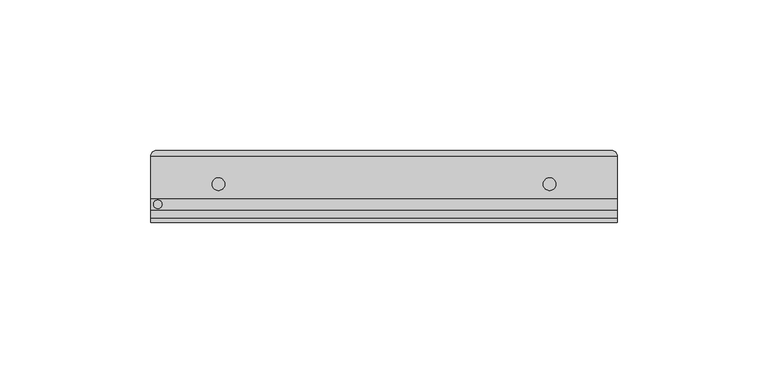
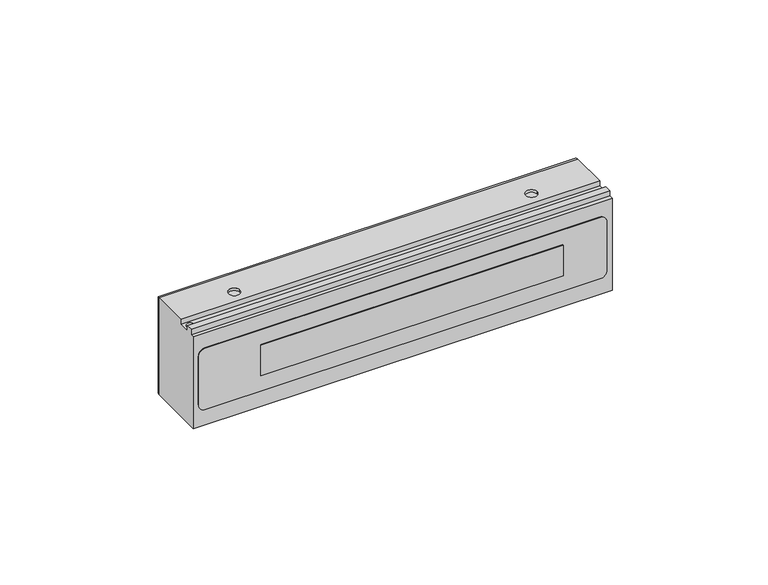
"""IFC4 building model written with IfcOpenShell, lengths in millimetres: proxy geometry, Электромагнитный_замок_ML-200K_Premium_Black_с_планкой_AccordTec_R19 : Электромагнитный_замок_ML-200K_Premium_Black_с_планкой_AccordTec_R19."""

from ifc_helpers import new_model, si_unit, point, frame, frame_2d, origin, place, context, project, spatial, polyline, circle_curve, ellipse_curve, trimmed, segment, composite_curve, outline, extrude, source, transform, mapped, element, save
from ifc_brep_helpers import plane_surface, cylinder_surface, revolved_surface, advanced_brep


def generic_models_45d1e053(model_context):
    return source(origin(), model_context, "Body", "SolidModel", [
        extrude(outline(polyline([(137.0, 0.0), (25.0, 0.0), (25.0, 1.0), (137.0, 1.0), (137.0, 0.0)])), frame((0.0, 0.0, 12.0), z_axis=(0.0, 0.0, 1.0), x_axis=(1.0, 0.0, 0.0)), (0.0, 0.0, 1.0), 12.0),
        extrude(outline(composite_curve([segment(trimmed(circle_curve(frame_2d((27.543832, 4.456168)), 2.456168), [point((30.0, 4.456168))], [point((27.543832, 2.0))], False, "CARTESIAN"), True, "CONTINUOUS"), segment(polyline([(27.543832, 2.0), (8.535388, 2.0)]), True, "CONTINUOUS"), segment(trimmed(circle_curve(frame_2d((8.535388, 4.535388)), 2.535388), [point((8.535388, 2.0))], [point((6.0, 4.535388))], False, "CARTESIAN"), True, "CONTINUOUS"), segment(polyline([(6.0, 4.535388), (6.0, 150.5255289)]), True, "CONTINUOUS"), segment(trimmed(circle_curve(frame_2d((8.4744711, 150.5255289)), 2.4744711), [point((6.0, 150.5255289))], [point((8.4744711, 153.0))], False, "CARTESIAN"), True, "CONTINUOUS"), segment(polyline([(8.4744711, 153.0), (27.5281712, 153.0)]), True, "CONTINUOUS"), segment(trimmed(circle_curve(frame_2d((27.5281712, 150.5281712)), 2.4718288), [point((27.5281712, 153.0))], [point((30.0, 150.5281712))], False, "CARTESIAN"), True, "CONTINUOUS"), segment(polyline([(30.0, 150.5281712), (30.0, 4.456168)]), True, "CONTINUOUS")], self_intersect=False), holes=[polyline([(24.0, 25.0), (24.0, 137.0), (12.0, 137.0), (12.0, 25.0), (24.0, 25.0)])]), frame((0.0, 0.0, 0.0), z_axis=(0.0, 1.0, 0.0), x_axis=(0.0, 0.0, 1.0)), (0.0, 0.0, 1.0), 1.0),
        advanced_brep(
        [(155.0, 8.0, 38.0), (155.0, 8.0, 36.0), (155.0, 4.0, 36.0), (155.0, 4.0, 38.0), (155.0, 1.5, 38.0), (155.0, 1.5, 36.0), (155.0, 0.0, 36.0), (155.0, 0.0, 0.0), (155.0, 22.0, 0.0), (155.0, 22.0, 38.0), (0.0, 0.0, 0.0), (0.0, 0.0, 36.0), (0.0, 1.5, 36.0), (0.0, 1.5, 38.0), (0.0, 4.0, 38.0), (0.0, 4.0, 36.0), (0.0, 8.0, 36.0), (0.0, 8.0, 38.0), (0.0, 22.0, 38.0), (0.0, 22.0, 0.0), (134.6, 12.75, 38.0), (130.4, 12.75, 38.0), (24.6, 12.75, 38.0), (20.4, 12.75, 38.0), (3.8, 6.09, 36.0), (1.0, 6.09, 36.0), (4.456168, 0.0, 30.0), (150.5281712, 0.0, 30.0), (153.0, 0.0, 27.5281712), (153.0, 0.0, 8.4744711), (150.5255289, 0.0, 6.0), (4.535388, 0.0, 6.0), (2.0, 0.0, 8.535388), (2.0, 0.0, 27.543832), (153.0, 24.0, 2.0), (2.0, 24.0, 2.0), (2.0, 24.0, 36.0), (153.0, 24.0, 36.0), (150.5281712, 1.0, 30.0), (4.456168, 1.0, 30.0), (2.0, 1.0, 27.543832), (2.0, 1.0, 8.535388), (4.535388, 1.0, 6.0), (150.5255289, 1.0, 6.0), (153.0, 1.0, 8.4744711), (153.0, 1.0, 27.5281712), (134.6, 12.75, 37.0), (130.4, 12.75, 37.0), (24.6, 12.75, 37.0), (20.4, 12.75, 37.0), (3.8, 6.09, 35.0), (1.0, 6.09, 35.0)],
        [
            (0, 1),
            (1, 2),
            (2, 3),
            (3, 4),
            (4, 5),
            (5, 6),
            (6, 7),
            (7, 8),
            (8, 9),
            (9, 0),
            (10, 11),
            (11, 12),
            (12, 13),
            (13, 14),
            (14, 15),
            (15, 16),
            (16, 17),
            (17, 18),
            (18, 19),
            (19, 10),
            (17, 0),
            (9, 18),
            (20, 21, circle_curve(frame((132.5, 12.75, 38.0), z_axis=(0.0, 0.0, -1.0), x_axis=(-1.0, 0.0, 0.0)), 2.1)),
            (21, 20, circle_curve(frame((132.5, 12.75, 38.0), z_axis=(0.0, 0.0, -1.0), x_axis=(-1.0, 0.0, 0.0)), 2.1)),
            (22, 23, circle_curve(frame((22.5, 12.75, 38.0), z_axis=(0.0, 0.0, -1.0), x_axis=(-1.0, 0.0, 0.0)), 2.1)),
            (23, 22, circle_curve(frame((22.5, 12.75, 38.0), z_axis=(0.0, 0.0, -1.0), x_axis=(-1.0, 0.0, 0.0)), 2.1)),
            (16, 1),
            (15, 2),
            (24, 25, circle_curve(frame((2.4, 6.09, 36.0), z_axis=(0.0, 0.0, -1.0), x_axis=(-1.0, 0.0, 0.0)), 1.4)),
            (25, 24, circle_curve(frame((2.4, 6.09, 36.0), z_axis=(0.0, 0.0, -1.0), x_axis=(-1.0, 0.0, 0.0)), 1.4)),
            (14, 3),
            (13, 4),
            (12, 5),
            (11, 6),
            (10, 7),
            (26, 27),
            (27, 28, circle_curve(frame((150.5281712, 0.0, 27.5281712), z_axis=(0.0, 1.0, 0.0), x_axis=(1.0, 0.0, 0.0)), 2.4718288)),
            (28, 29),
            (29, 30, circle_curve(frame((150.5255289, 0.0, 8.4744711), z_axis=(0.0, 1.0, 0.0), x_axis=(1.0, 0.0, 0.0)), 2.4744711)),
            (30, 31),
            (31, 32, circle_curve(frame((4.535388, 0.0, 8.535388), z_axis=(0.0, 1.0, 0.0), x_axis=(1.0, 0.0, 0.0)), 2.535388)),
            (32, 33),
            (33, 26, circle_curve(frame((4.456168, 0.0, 27.543832), z_axis=(0.0, 1.0, 0.0), x_axis=(1.0, 0.0, 0.0)), 2.456168)),
            (19, 8),
            (34, 35),
            (35, 36),
            (36, 37),
            (37, 34),
            (38, 39),
            (39, 40, circle_curve(frame((4.456168, 1.0, 27.543832), z_axis=(0.0, -1.0, 0.0), x_axis=(1.0, 0.0, 0.0)), 2.456168)),
            (40, 41),
            (41, 42, circle_curve(frame((4.535388, 1.0, 8.535388), z_axis=(0.0, -1.0, 0.0), x_axis=(1.0, 0.0, 0.0)), 2.535388)),
            (42, 43),
            (43, 44, circle_curve(frame((150.5255289, 1.0, 8.4744711), z_axis=(0.0, -1.0, 0.0), x_axis=(1.0, 0.0, 0.0)), 2.4744711)),
            (44, 45),
            (45, 38, circle_curve(frame((150.5281712, 1.0, 27.5281712), z_axis=(0.0, -1.0, 0.0), x_axis=(1.0, 0.0, 0.0)), 2.4718288)),
            (38, 27),
            (26, 39),
            (33, 40),
            (32, 41),
            (31, 42),
            (30, 43),
            (29, 44),
            (28, 45),
            (9, 37, ellipse_curve(frame((153.0, 22.0, 36.0), z_axis=(-0.7071067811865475, 0.0, 0.7071067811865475), x_axis=(-0.7071067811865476, 0.0, -0.7071067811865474)), 2.8284271, 2.0)),
            (36, 18, ellipse_curve(frame((2.0, 22.0, 36.0), z_axis=(0.7071067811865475, 0.0, 0.7071067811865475), x_axis=(-0.7071067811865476, 0.0, 0.7071067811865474)), 2.8284271, 2.0)),
            (19, 35, ellipse_curve(frame((2.0, 22.0, 2.0), z_axis=(0.7071067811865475, 0.0, -0.7071067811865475), x_axis=(-0.7071067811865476, 0.0, -0.7071067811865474)), 2.8284271, 2.0)),
            (34, 8, ellipse_curve(frame((153.0, 22.0, 2.0), z_axis=(-0.7071067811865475, 0.0, -0.7071067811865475), x_axis=(-0.7071067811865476, 0.0, 0.7071067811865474)), 2.8284271, 2.0)),
            (46, 47, circle_curve(frame((132.5, 12.75, 37.0), z_axis=(0.0, 0.0, 1.0), x_axis=(-1.0, 0.0, 0.0)), 2.1)),
            (47, 46, circle_curve(frame((132.5, 12.75, 37.0), z_axis=(0.0, 0.0, 1.0), x_axis=(-1.0, 0.0, 0.0)), 2.1)),
            (48, 49, circle_curve(frame((22.5, 12.75, 37.0), z_axis=(0.0, 0.0, 1.0), x_axis=(-1.0, 0.0, 0.0)), 2.1)),
            (49, 48, circle_curve(frame((22.5, 12.75, 37.0), z_axis=(0.0, 0.0, 1.0), x_axis=(-1.0, 0.0, 0.0)), 2.1)),
            (47, 21),
            (20, 46),
            (49, 23),
            (22, 48),
            (50, 51, circle_curve(frame((2.4, 6.09, 35.0), z_axis=(0.0, 0.0, 1.0), x_axis=(-1.0, 0.0, 0.0)), 1.4)),
            (51, 50, circle_curve(frame((2.4, 6.09, 35.0), z_axis=(0.0, 0.0, 1.0), x_axis=(-1.0, 0.0, 0.0)), 1.4)),
            (51, 25),
            (24, 50),
        ],
        [
            plane_surface(frame((155.0, 8.0, 38.0), z_axis=(1.0, 0.0, 0.0), x_axis=(0.0, -1.0, 0.0))),
            plane_surface(frame((0.0, 8.0, 38.0), z_axis=(-1.0, 0.0, 0.0), x_axis=(0.0, 1.0, 0.0))),
            plane_surface(frame((155.0, 24.0, 38.0), z_axis=(0.0, 0.0, 1.0), x_axis=(-1.0, 0.0, 0.0))),
            plane_surface(frame((155.0, 8.0, 38.0), z_axis=(0.0, -1.0, 0.0), x_axis=(-1.0, 0.0, 0.0))),
            plane_surface(frame((155.0, 8.0, 36.0), z_axis=(0.0, 0.0, 1.0), x_axis=(-1.0, 0.0, 0.0))),
            plane_surface(frame((155.0, 4.0, 36.0), z_axis=(0.0, 1.0, 0.0), x_axis=(-1.0, 0.0, 0.0))),
            plane_surface(frame((155.0, 4.0, 38.0), z_axis=(0.0, 0.0, 1.0), x_axis=(-1.0, 0.0, 0.0))),
            plane_surface(frame((155.0, 1.5, 38.0), z_axis=(0.0, -1.0, 0.0), x_axis=(-1.0, 0.0, 0.0))),
            plane_surface(frame((155.0, 1.5, 36.0), z_axis=(0.0, 0.0, 1.0), x_axis=(-1.0, 0.0, 0.0))),
            plane_surface(frame((155.0, 0.0, 36.0), z_axis=(0.0, -1.0, 0.0), x_axis=(-1.0, 0.0, 0.0))),
            plane_surface(frame((155.0, 0.0, 0.0), z_axis=(0.0, 0.0, -1.0), x_axis=(-1.0, 0.0, 0.0))),
            plane_surface(frame((155.0, 24.0, 0.0), z_axis=(0.0, 1.0, 0.0), x_axis=(-1.0, 0.0, 0.0))),
            plane_surface(frame((4.456168, 1.0, 30.0), z_axis=(0.0, -1.0, 0.0), x_axis=(1.0, 0.0, 0.0))),
            plane_surface(frame((150.5281712, -1.0, 30.0), z_axis=(0.0, 0.0, -1.0), x_axis=(0.0, 1.0, 0.0))),
            revolved_surface(polyline([(6.912336, 0.0, 27.543832), (6.912336, 1.0, 27.543832)]), (4.456168, 1.0, 27.543832), (0.0, -1.0, 0.0)),
            plane_surface(frame((2.0, -1.0, 27.543832), z_axis=(1.0, 0.0, 0.0), x_axis=(0.0, 1.0, 0.0))),
            revolved_surface(polyline([(7.070776, 0.0, 8.535388), (7.070776, 1.0, 8.535388)]), (4.535388, 1.0, 8.535388), (0.0, -1.0, 0.0)),
            plane_surface(frame((4.535388, -1.0, 6.0), z_axis=(0.0, 0.0, 1.0), x_axis=(0.0, 1.0, 0.0))),
            revolved_surface(polyline([(153.0, 0.0, 8.4744711), (153.0, 1.0, 8.4744711)]), (150.5255289, 1.0, 8.4744711), (0.0, -1.0, 0.0)),
            plane_surface(frame((153.0, -1.0, 8.4744711), z_axis=(-1.0, 0.0, 0.0), x_axis=(0.0, 1.0, 0.0))),
            revolved_surface(polyline([(153.0, 0.0, 27.5281712), (153.0, 1.0, 27.5281712)]), (150.5281712, 1.0, 27.5281712), (0.0, -1.0, 0.0)),
            cylinder_surface(frame((0.0, 22.0, 36.0), z_axis=(-1.0, 0.0, 0.0), x_axis=(0.0, -1.0, 0.0)), 2.0),
            cylinder_surface(frame((0.0, 22.0, 2.0), z_axis=(-1.0, 0.0, 0.0), x_axis=(0.0, -1.0, 0.0)), 2.0),
            cylinder_surface(frame((153.0, 22.0, 0.0), z_axis=(0.0, 0.0, -1.0), x_axis=(1.0, 0.0, 0.0)), 2.0),
            cylinder_surface(frame((2.0, 22.0, 0.0), z_axis=(0.0, 0.0, -1.0), x_axis=(1.0, 0.0, 0.0)), 2.0),
            plane_surface(frame((130.4, 12.75, 37.0), z_axis=(0.0, 0.0, 1.0), x_axis=(0.0, 1.0, 0.0))),
            revolved_surface(polyline([(130.4, 12.75, 37.0), (130.4, 12.75, 38.0)]), (132.5, 12.75, 39.0), (0.0, 0.0, -1.0)),
            revolved_surface(polyline([(20.4, 12.75, 37.0), (20.4, 12.75, 38.0)]), (22.5, 12.75, 38.0), (0.0, 0.0, -1.0)),
            plane_surface(frame((1.0, 6.09, 35.0), z_axis=(0.0, 0.0, 1.0), x_axis=(0.0, 1.0, 0.0))),
            revolved_surface(polyline([(1.0, 6.09, 35.0), (1.0, 6.09, 36.0)]), (2.4, 6.09, 37.0), (0.0, 0.0, -1.0)),
        ],
        [
            (0, [[1, 2, 3, 4, 5, 6, 7, 8, 9, 10]]),
            (1, [[11, 12, 13, 14, 15, 16, 17, 18, 19, 20]]),
            (2, [[21, -10, 22, -18], [23, 24], [25, 26]]),
            (3, [[-1, -21, -17, 27]]),
            (4, [[-2, -27, -16, 28], [29, 30]]),
            (5, [[-3, -28, -15, 31]]),
            (6, [[-4, -31, -14, 32]]),
            (7, [[-5, -32, -13, 33]]),
            (8, [[-6, -33, -12, 34]]),
            (9, [[-7, -34, -11, 35], [36, 37, 38, 39, 40, 41, 42, 43]]),
            (10, [[-35, -20, 44, -8]]),
            (11, [[45, 46, 47, 48]]),
            (12, [[49, 50, 51, 52, 53, 54, 55, 56]]),
            (13, [[-49, 57, -36, 58]]),
            (14, [[-50, -58, -43, 59]]),
            (15, [[-51, -59, -42, 60]]),
            (16, [[-52, -60, -41, 61]]),
            (17, [[-53, -61, -40, 62]]),
            (18, [[-54, -62, -39, 63]]),
            (19, [[-55, -63, -38, 64]]),
            (20, [[-56, -64, -37, -57]]),
            (21, [[-22, 65, -47, 66]]),
            (22, [[-44, 67, -45, 68]]),
            (23, [[-9, -68, -48, -65]]),
            (24, [[-19, -66, -46, -67]]),
            (25, [[69, 70]]),
            (25, [[71, 72]]),
            (26, [[-70, 73, -23, 74]]),
            (26, [[-69, -74, -24, -73]]),
            (27, [[-72, 75, -25, 76]]),
            (27, [[-71, -76, -26, -75]]),
            (28, [[77, 78]]),
            (29, [[-78, 79, -29, 80]]),
            (29, [[-77, -80, -30, -79]]),
        ],
    ),
    ])


if __name__ == "__main__":
    model = new_model("IFC4")
    model_context = context("Model", 3, world=origin())
    ifc_project = project(units=[si_unit("LENGTHUNIT", "METRE", prefix="MILLI")], contexts=[model_context])
    site = spatial("IfcSite", under=ifc_project)
    building = spatial("IfcBuilding", under=site)
    placement = place(None, origin())
    generic_models_shape = generic_models_45d1e053(model_context)
    element("IfcBuildingElementProxy", 1, Name="Электромагнитный_замок_ML-200K_Premium_Black_с_планкой_AccordTec_R19 : Электромагнитный_замок_ML-200K_Premium_Black_с_планкой_AccordTec_R19", ObjectType="Электромагнитный_замок_ML-200K_Premium_Black_с_планкой_AccordTec_R19 : Электромагнитный_замок_ML-200K_Premium_Black_с_планкой_AccordTec_R19", at=placement, inside=building, context=model_context, shape_type="MappedRepresentation", body=[
        mapped(generic_models_shape, transform((0.0, 0.0, 0.0), x_axis=(1.0, 0.0, 0.0), y_axis=(0.0, 1.0, 0.0), z_axis=(0.0, 0.0, 1.0))),
    ])
    save(model, "model.ifc")
